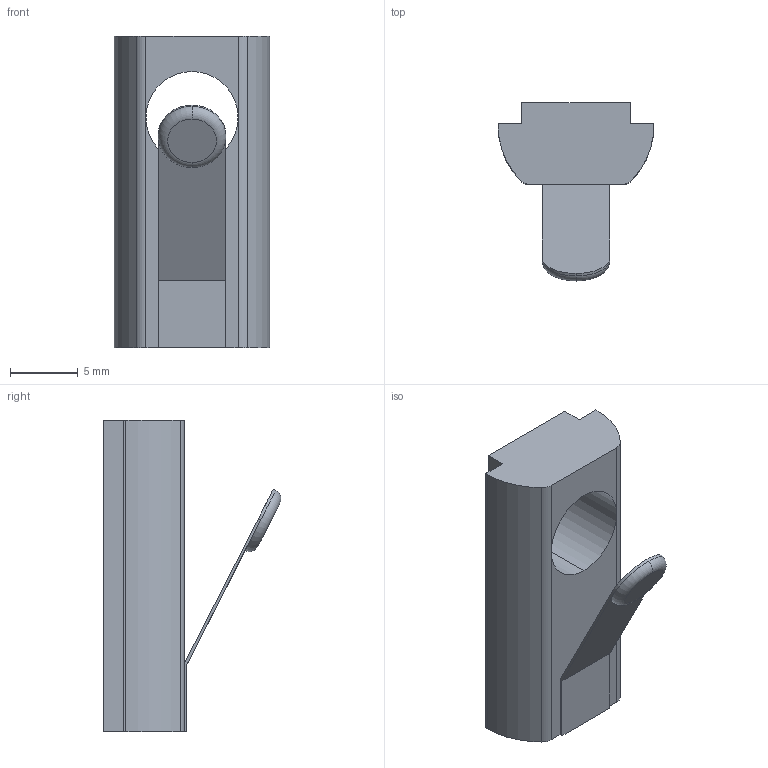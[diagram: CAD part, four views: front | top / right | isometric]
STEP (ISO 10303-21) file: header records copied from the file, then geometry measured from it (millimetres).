
FILE_DESCRIPTION (( 'STEP AP203' ), '1' );
FILE_NAME ('DSN08M8.STEP', '2020-02-14T01:36:43', ( '' ), ( '' ), 'SwSTEP 2.0', 'SolidWorks 2017', '' );
FILE_SCHEMA (( 'CONFIG_CONTROL_DESIGN' ));
Length unit declared in the file: millimetre
Products named in the file (1): DSN08M8
Bounding box: 11.5 x 13.14 x 23 mm (x, y, z)
Volume: 1160 mm3; surface area: 1066.8 mm2
Topology: 1 solids, 1 shells, 25 faces, 66 edges, 43 vertices
Faces by surface type: plane 14, cylinder 9, torus 2
Entity records: 861 total; most frequent: DIRECTION 142, CARTESIAN_POINT 135, ORIENTED_EDGE 132, EDGE_CURVE 66, AXIS2_PLACEMENT_3D 50, VERTEX_POINT 43, LINE 42, VECTOR 42
